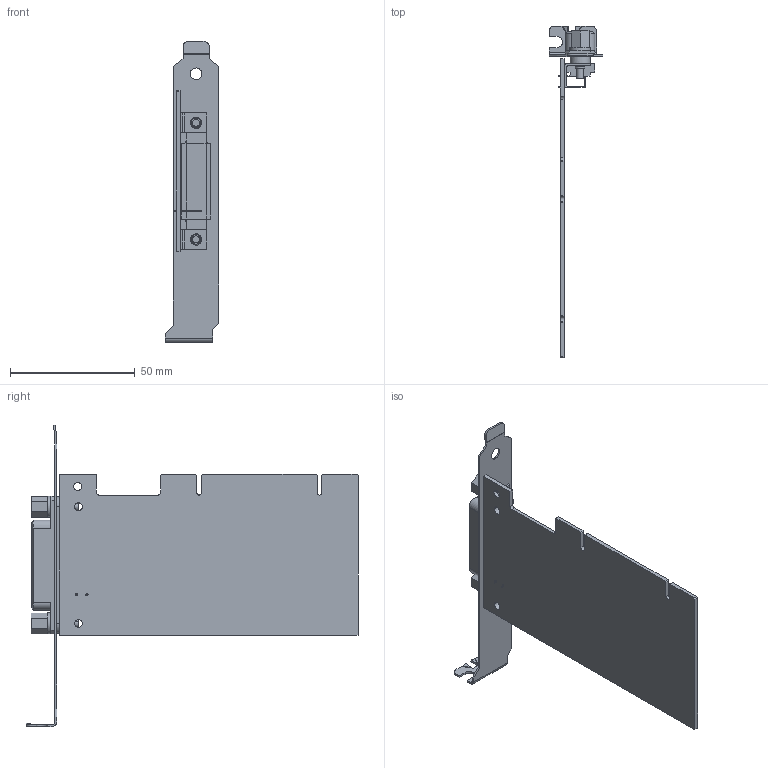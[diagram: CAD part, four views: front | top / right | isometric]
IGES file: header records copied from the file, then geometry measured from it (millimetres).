
Start section:  PTC IGES file: cu_pci-gpib.igs
Global section: file name: cu_pci-gpib.igs; native system: Pro/ENGINEER by Parametric Technology Corporation; preprocessor: 2010230; author: stgill; organization: Unknown; date: 20110706.102610; units: inch
Bounding box: 21.59 x 133.16 x 120.8 mm (x, y, z)
Surface area: 25752 mm2 (no closed solid volume)
Topology: 0 solids, 0 shells, 288 faces, 1520 edges, 1520 vertices
Faces by surface type: bspline 193, revolution 95
